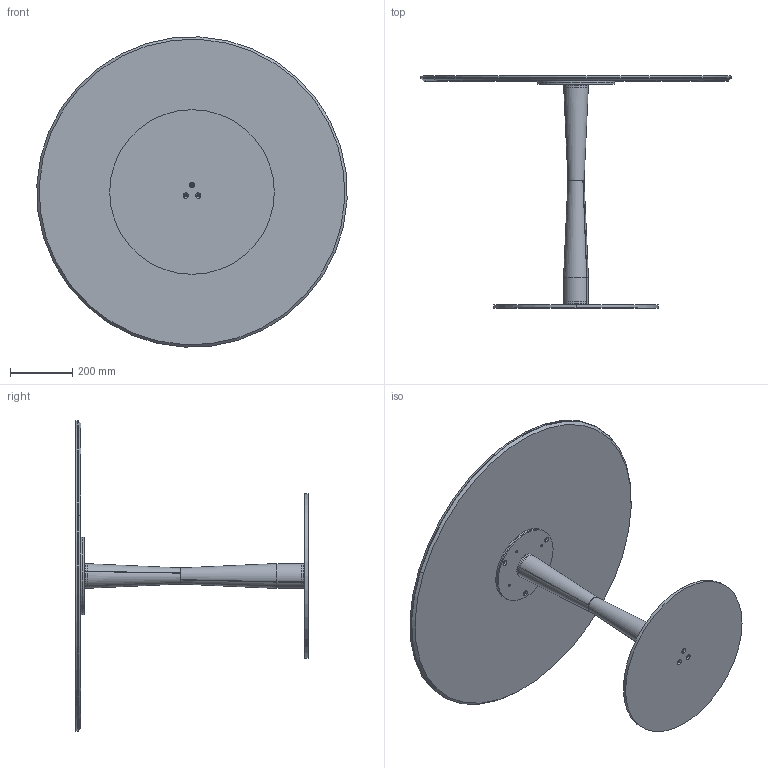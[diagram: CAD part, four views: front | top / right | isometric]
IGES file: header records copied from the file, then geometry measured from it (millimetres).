
Start section: SolidWorks IGES file using analytic representation for surfaces
Global section: file name: Y:\eforma\TECNICO\SOLIDWORKS\E-FORMA\5-TAVOLINI BISTRO\FILÚ\02 parts\FI30C.IGS; native system: SolidWorks 2022; preprocessor: SolidWorks 2022; author: eforma.tech; date: 240808.095903; units: millimetre
Bounding box: 998.7 x 747 x 998.7 mm (x, y, z)
Volume: 15549292 mm3; surface area: 4160776 mm2
Topology: 11 solids, 11 shells, 181 faces, 424 edges, 264 vertices
Faces by surface type: revolution 144, plane 34, bspline 3
